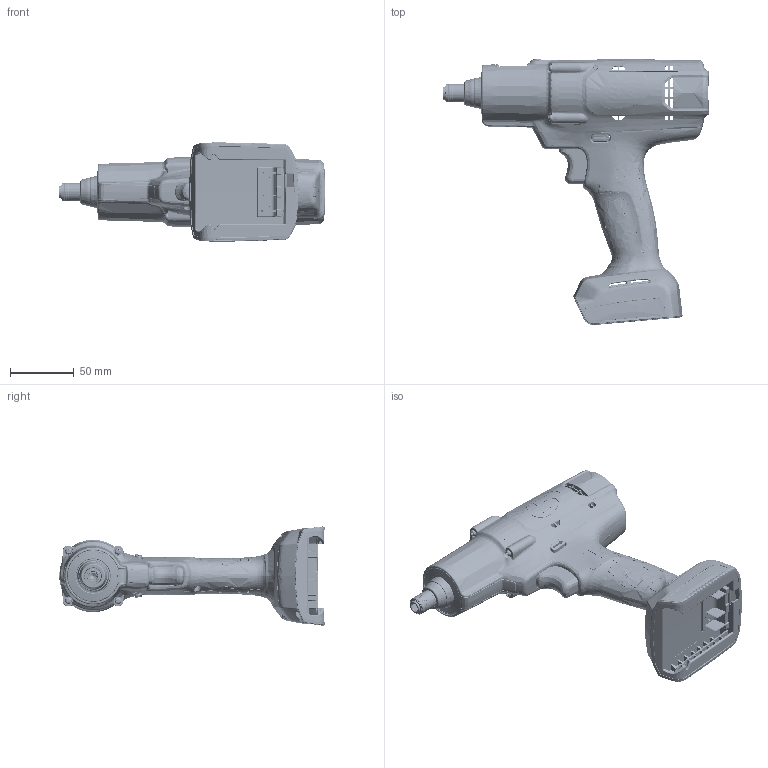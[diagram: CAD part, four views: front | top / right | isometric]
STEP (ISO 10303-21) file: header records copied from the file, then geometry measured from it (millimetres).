
FILE_DESCRIPTION((''),'2;1');
FILE_NAME('PISOTOL-0411_1_ASM','2024-06-12T10:14:04',('robinsonzhou'),(''),'CREO PARAMETRIC BY PTC INC, 2023014','CREO PARAMETRIC BY PTC INC, 2023014','');
FILE_SCHEMA(('CONFIG_CONTROL_DESIGN'));
Products named in the file (55): 2SPRA148; IRTW-18; JW0001; __O0001; 0001; P110-04-H; H110P1-04-H-Y000; _-R-83000; _-R-95000; LEDO_T0001; 3LEDO0001; ON-13100; ON-14300; ON-15500; O__0001; 2STEB044-191; 2STEB044-203; 2STEB044-215; 2STEB044-227; 2SCRA002; _0001; TE_000; 2SCRA209; _-L-313000; _-L-325000; OPCB-2024-01300001; USB_O00; 2SPRA; J0001; 2SPRA-U-20120417_W0001; D__PCB-4220001; D__PCB-1038230001; D__PCB-1038350001; D__PCB-1038470001; KV00; D___E140001; K000; 0002_ASM; DW1758326FUA3G_972-FOR_CLUTCH_P; V0001_ASM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
Assembly tree (70 placements, depth 4):
  PISOTOL-0411_1_ASM
    2SPRA148
    IRTW-18
    JW0001
    __O0001
    0001
    P110-04-H
    H110P1-04-H-Y000
    _-R-83000
    _-R-95000
    LEDO_T0001
    3LEDO0001
    ON-13100
    ON-14300
    ON-15500
    O__0001
    2STEB044-191
    2STEB044-203
    2STEB044-215
    2STEB044-227
    2SCRA002  x14
    _0001
    TE_000
    2SCRA209
    _-L-313000
    _-L-325000
    OPCB-2024-01300001
    USB_O00
    2SPRA
    J0001
    2SPRA-U-20120417_W0001
    D__0001_ASM
      D__PCB-4220001
      D__PCB-1038230001
      D__PCB-1038350001
      D__PCB-1038470001
      KV00  x2
      0002_ASM
        D___E140001
        K000
      V0001_ASM
        K000
        DW1758326FUA3G_972-FOR_CLUTCH_P
    USBO-4350_ASM
      FTPC24-FBS-1R-A02
      USBO-705630
    EX-2024-0216-6701Z0001_ASM
      2RINAU0001
      6701ZZ  x2
      03095031
      45551827
      47512717001
      45555125
      04681615
      XB-2024-01150001
      2IROA-16X12X6
Bounding box: 209.95 x 209.26 x 77.91 mm (x, y, z)
Volume: 36908.9 mm3; surface area: 246862.5 mm2
Topology: 61 solids, 78 shells, 11225 faces, 31617 edges, 20323 vertices
Faces by surface type: plane 3621, bspline 3373, cylinder 2318, cone 648, torus 561, extrusion 505, sphere 193, revolution 6
Entity records: 660779 total; most frequent: CARTESIAN_POINT 434815, ORIENTED_EDGE 54979, DIRECTION 33305, EDGE_CURVE 28160, VERTEX_POINT 18168, B_SPLINE_CURVE_WITH_KNOTS 13587, AXIS2_PLACEMENT_3D 11121, VECTOR 11057
